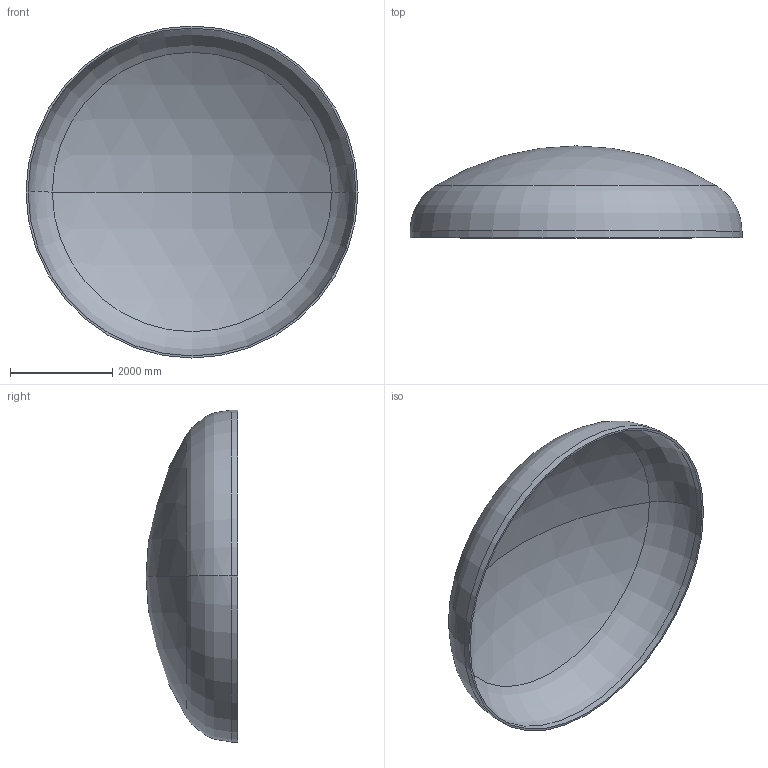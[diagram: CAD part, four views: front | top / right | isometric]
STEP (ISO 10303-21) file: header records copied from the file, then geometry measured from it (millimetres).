
FILE_DESCRIPTION (( 'STEP AP203' ), '1' );
FILE_NAME ('DIN 28013 Korbbogenform_-_Boden DIN 28013 - 6500 x 130 - I - s=41.step', '2016-07-04T10:41:52', ( '' ), ( '' ), 'SwSTEP 2.0', 'SolidWorks 2013', '' );
FILE_SCHEMA (( 'CONFIG_CONTROL_DESIGN' ));
Length unit declared in the file: millimetre
Products named in the file (1): DIN 28013 Korbbogenform_-_Boden DIN 28013 - 6500 x 130 - I - s=41
Bounding box: 6500 x 1798.84 x 6500 mm (x, y, z)
Volume: 1976457851.8 mm3; surface area: 97248014.8 mm2
Topology: 1 solids, 1 shells, 13 faces, 24 edges, 14 vertices
Faces by surface type: torus 4, cylinder 4, sphere 4, plane 1
Entity records: 407 total; most frequent: DIRECTION 72, CARTESIAN_POINT 52, ORIENTED_EDGE 48, AXIS2_PLACEMENT_3D 34, EDGE_CURVE 24, CIRCLE 20, VERTEX_POINT 14, EDGE_LOOP 14
